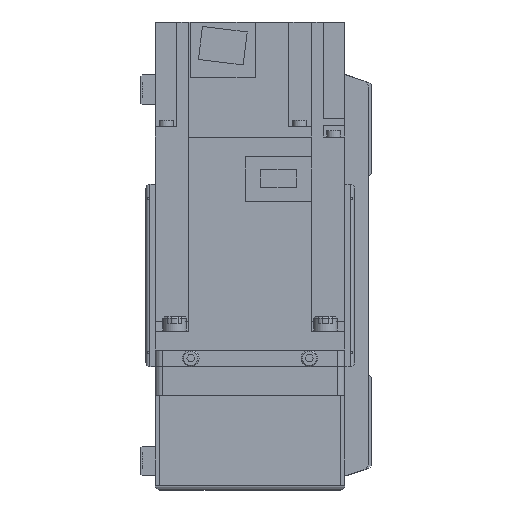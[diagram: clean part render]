
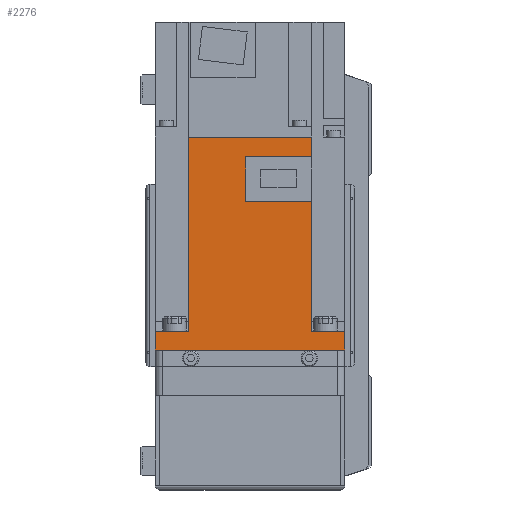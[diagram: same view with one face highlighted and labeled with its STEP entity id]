
A CAD part, left-side view. The second image highlights one B-rep face of the part: STEP entity #2276.
In plain terms, the highlighted planar face has unit normal (-1, 0, 0) as drawn and (1, 0, 0) by its records, which use the part's own axes.
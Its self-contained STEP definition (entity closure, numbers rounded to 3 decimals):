
#2276 = ADVANCED_FACE( '', ( #5128 ), #5129, .F. );
#5128 = FACE_OUTER_BOUND( '', #8622, .T. );
#5129 = PLANE( '', #8623 );
#8622 = EDGE_LOOP( '', ( #15077, #15078, #15079, #15080, #15081, #15082, #15083, #15084, #15085, #15086, #15087, #15088 ) );
#8623 = AXIS2_PLACEMENT_3D( '', #15089, #15090, #15091 );
#15077 = ORIENTED_EDGE( '', *, *, #20273, .F. );
#15078 = ORIENTED_EDGE( '', *, *, #22198, .F. );
#15079 = ORIENTED_EDGE( '', *, *, #21415, .F. );
#15080 = ORIENTED_EDGE( '', *, *, #22199, .T. );
#15081 = ORIENTED_EDGE( '', *, *, #22200, .F. );
#15082 = ORIENTED_EDGE( '', *, *, #22201, .T. );
#15083 = ORIENTED_EDGE( '', *, *, #22202, .T. );
#15084 = ORIENTED_EDGE( '', *, *, #20535, .F. );
#15085 = ORIENTED_EDGE( '', *, *, #22203, .F. );
#15086 = ORIENTED_EDGE( '', *, *, #22204, .F. );
#15087 = ORIENTED_EDGE( '', *, *, #22205, .F. );
#15088 = ORIENTED_EDGE( '', *, *, #22169, .F. );
#15089 = CARTESIAN_POINT( '', ( 40., 89.8, 40. ) );
#15090 = DIRECTION( '', ( -1., 0., 0. ) );
#15091 = DIRECTION( '', ( 0., 0., 1. ) );
#20273 = EDGE_CURVE( '', #24317, #24319, #24320, .T. );
#20535 = EDGE_CURVE( '', #24774, #24776, #24777, .T. );
#21415 = EDGE_CURVE( '', #26209, #26207, #26211, .T. );
#22169 = EDGE_CURVE( '', #24319, #27313, #27314, .T. );
#22198 = EDGE_CURVE( '', #26207, #24317, #27354, .T. );
#22199 = EDGE_CURVE( '', #26209, #27355, #27356, .T. );
#22200 = EDGE_CURVE( '', #27357, #27355, #27358, .T. );
#22201 = EDGE_CURVE( '', #27357, #27359, #27360, .T. );
#22202 = EDGE_CURVE( '', #27359, #24776, #27361, .T. );
#22203 = EDGE_CURVE( '', #27362, #24774, #27363, .T. );
#22204 = EDGE_CURVE( '', #27364, #27362, #27365, .T. );
#22205 = EDGE_CURVE( '', #27313, #27364, #27366, .T. );
#24317 = VERTEX_POINT( '', #30131 );
#24319 = VERTEX_POINT( '', #30134 );
#24320 = LINE( '', #30135, #30136 );
#24774 = VERTEX_POINT( '', #31028 );
#24776 = VERTEX_POINT( '', #31031 );
#24777 = LINE( '', #31032, #31033 );
#26207 = VERTEX_POINT( '', #33384 );
#26209 = VERTEX_POINT( '', #33387 );
#26211 = LINE( '', #33390, #33391 );
#27313 = VERTEX_POINT( '', #34970 );
#27314 = LINE( '', #34971, #34972 );
#27354 = LINE( '', #35031, #35032 );
#27355 = VERTEX_POINT( '', #35033 );
#27356 = LINE( '', #35034, #35035 );
#27357 = VERTEX_POINT( '', #35036 );
#27358 = LINE( '', #35037, #35038 );
#27359 = VERTEX_POINT( '', #35039 );
#27360 = LINE( '', #35040, #35041 );
#27361 = LINE( '', #35042, #35043 );
#27362 = VERTEX_POINT( '', #35044 );
#27363 = LINE( '', #35045, #35046 );
#27364 = VERTEX_POINT( '', #35047 );
#27365 = LINE( '', #35048, #35049 );
#27366 = LINE( '', #35050, #35051 );
#30131 = CARTESIAN_POINT( '', ( 40., 81.4, -25.95 ) );
#30134 = CARTESIAN_POINT( '', ( 40., 81.4, 1.8 ) );
#30135 = CARTESIAN_POINT( '', ( 40., 81.4, -26. ) );
#30136 = VECTOR( '', #37647, 1000. );
#31028 = CARTESIAN_POINT( '', ( 40., 8., -40. ) );
#31031 = CARTESIAN_POINT( '', ( 40., 0., -40. ) );
#31032 = CARTESIAN_POINT( '', ( 40., 89.8, -40. ) );
#31033 = VECTOR( '', #37963, 1000. );
#33384 = CARTESIAN_POINT( '', ( 40., 89.8, -25.95 ) );
#33387 = CARTESIAN_POINT( '', ( 40., 89.8, 25.95 ) );
#33390 = CARTESIAN_POINT( '', ( 40., 89.8, 40. ) );
#33391 = VECTOR( '', #39116, 1000. );
#34970 = CARTESIAN_POINT( '', ( 40., 62.8, 1.8 ) );
#34971 = CARTESIAN_POINT( '', ( 40., 81.4, 1.8 ) );
#34972 = VECTOR( '', #40052, 1000. );
#35031 = CARTESIAN_POINT( '', ( 40., 158., -25.95 ) );
#35032 = VECTOR( '', #40085, 1000. );
#35033 = CARTESIAN_POINT( '', ( 40., 8., 25.95 ) );
#35034 = CARTESIAN_POINT( '', ( 40., 158., 25.95 ) );
#35035 = VECTOR( '', #40086, 1000. );
#35036 = CARTESIAN_POINT( '', ( 40., 8., 40. ) );
#35037 = CARTESIAN_POINT( '', ( 40., 8., 40. ) );
#35038 = VECTOR( '', #40087, 1000. );
#35039 = CARTESIAN_POINT( '', ( 40., 0., 40. ) );
#35040 = CARTESIAN_POINT( '', ( 40., 89.8, 40. ) );
#35041 = VECTOR( '', #40088, 1000. );
#35042 = CARTESIAN_POINT( '', ( 40., 0., 40. ) );
#35043 = VECTOR( '', #40089, 1000. );
#35044 = CARTESIAN_POINT( '', ( 40., 8., -25.95 ) );
#35045 = CARTESIAN_POINT( '', ( 40., 8., 40. ) );
#35046 = VECTOR( '', #40090, 1000. );
#35047 = CARTESIAN_POINT( '', ( 40., 62.8, -25.95 ) );
#35048 = CARTESIAN_POINT( '', ( 40., 158., -25.95 ) );
#35049 = VECTOR( '', #40091, 1000. );
#35050 = CARTESIAN_POINT( '', ( 40., 62.8, 1.8 ) );
#35051 = VECTOR( '', #40092, 1000. );
#37647 = DIRECTION( '', ( 0., 0., 1. ) );
#37963 = DIRECTION( '', ( 0., -1., 0. ) );
#39116 = DIRECTION( '', ( 0., 0., -1. ) );
#40052 = DIRECTION( '', ( 0., -1., 0. ) );
#40085 = DIRECTION( '', ( 0., -1., 0. ) );
#40086 = DIRECTION( '', ( 0., -1., 0. ) );
#40087 = DIRECTION( '', ( 0., 0., -1. ) );
#40088 = DIRECTION( '', ( 0., -1., 0. ) );
#40089 = DIRECTION( '', ( 0., 0., -1. ) );
#40090 = DIRECTION( '', ( 0., 0., -1. ) );
#40091 = DIRECTION( '', ( 0., -1., 0. ) );
#40092 = DIRECTION( '', ( 0., 0., -1. ) );
